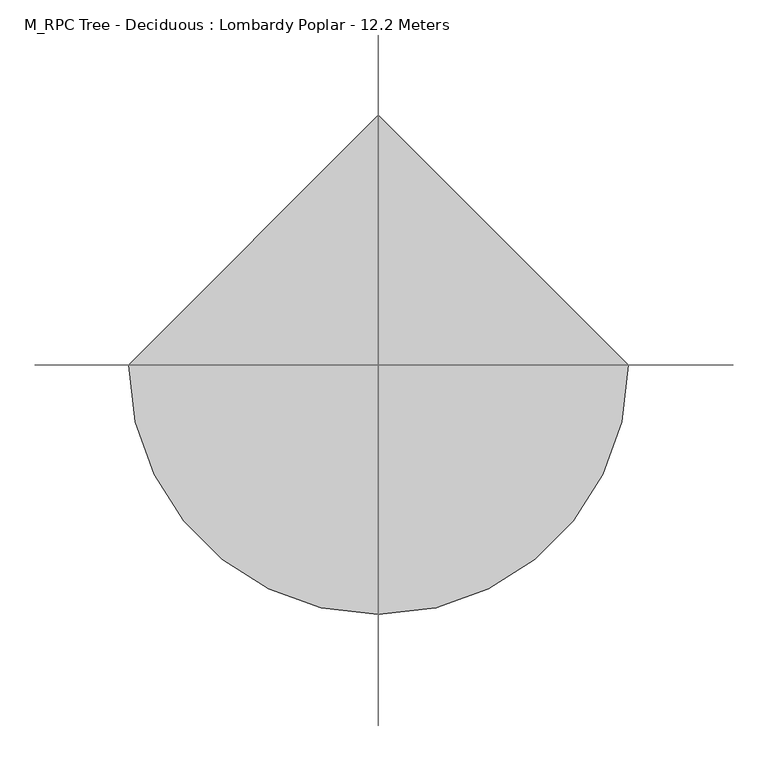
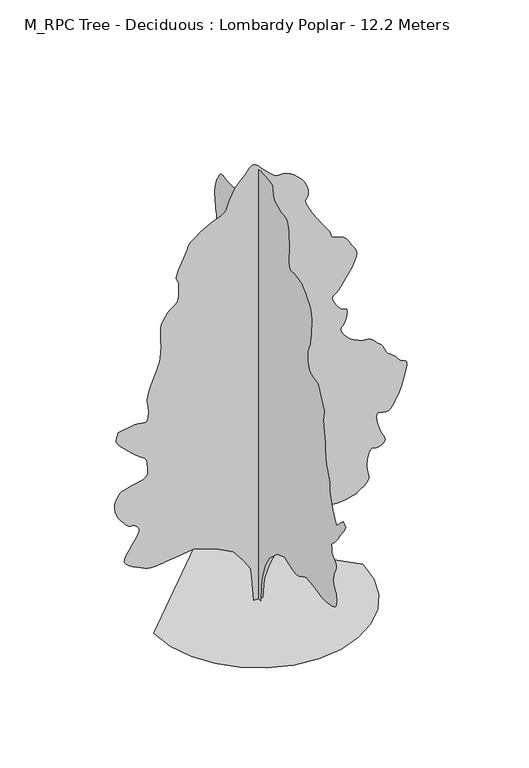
"""IFC4 building model written with IfcOpenShell, lengths in millimetres: geographic element geometry, M_RPC Tree - Deciduous : Lombardy Poplar - 12.2 Meters."""

from ifc_helpers import new_model, si_unit, origin, place, context, project, spatial, triangles, source, transform, mapped, element, save


def m_rpc_tree_deciduous_lombardy_poplar_12_2_meters_1b309f58(model_context):
    return source(origin(), model_context, "Body", "Tessellation", [
        triangles([(0.0009702, 113.8903684, 0.0), (0.0009702, -104.9033079, 0.0), (0.0009702, -123.1361794, 437.5878613), (0.0009702, -177.8345304, 729.3122423), (0.0009702, -323.695976, 1130.4323805), (0.0009702, -506.0246724, 1440.3905685), (0.0009702, -870.6795582, 1768.5802746), (0.0009702, -1217.103035, 1896.2098389), (0.0009702, -1399.4317314, 1823.2794067), (0.0009702, -1477.3590969, 1796.3301796), (0.0009702, -1554.013139, 1771.7700508), (0.0009702, -1628.1126858, 1751.9959671), (0.0009702, -1698.3871754, 1739.3994976), (0.0009702, -1763.5554359, 1736.3672699), (0.0009702, -1822.3466148, 1745.2987015), (0.0009702, -1873.4847725, 1768.5802746), (0.0009702, -1920.3683933, 1798.2414001), (0.0009702, -1967.2543396, 1825.0330788), (0.0009702, -2014.1379604, 1849.4330429), (0.0009702, -2061.0214359, 1871.9166996), (0.0009702, -2107.9049114, 1892.9691936), (0.0009702, -2154.791003, 1913.0611359), (0.0009702, -2201.6744785, 1932.6776711), (0.0009702, -2584.5657875, 1877.9785389), (0.0009702, -2650.9538864, 1862.4565212), (0.0009702, -2717.189669, 1847.572546), (0.0009702, -2783.0949486, 1833.9645103), (0.0009702, -2848.5426979, 1822.2703114), (0.0009702, -2913.3297318, 1813.1253754), (0.0009702, -2977.3287323, 1807.1728317), (0.0009702, -3040.3873833, 1805.0454906), (0.0009702, -3113.6890137, 1807.4372051), (0.0009702, -3202.6219574, 1815.2528618), (0.0009702, -3298.2390862, 1829.4454548), (0.0009702, -3391.6453033, 1850.9733559), (0.0009702, -3473.8681915, 1880.7946461), (0.0009702, -3536.0117821, 1919.865081), (0.0009702, -3569.129528, 1969.1428871), (0.0009702, -3581.5837097, 2022.776968), (0.0009702, -3588.2681854, 2074.4973576), (0.0009702, -3590.1744644, 2124.6265652), (0.0009702, -3588.2681854, 2173.4772171), (0.0009702, -3583.4899887, 2221.3724041), (0.0009702, -3576.7799332, 2268.6269325), (0.0009702, -3569.129528, 2315.5638931), (0.0009702, -3534.3595573, 2355.0611916), (0.0009702, -3502.0042648, 2397.1080437), (0.0009702, -3474.4018799, 2444.2583633), (0.0009702, -3453.9923698, 2499.0617043), (0.0009702, -3443.1648331, 2564.0798286), (0.0009702, -3444.2577896, 2641.8294434), (0.0009702, -3459.736496, 2734.9304466), (0.0009702, -3486.8051926, 2827.0402313), (0.0009702, -3517.6864471, 2902.5786438), (0.0009702, -3547.2965584, 2965.0271576), (0.0009702, -3570.5274078, 3017.919278), (0.0009702, -3582.270005, 3064.7620583), (0.0009702, -3577.4153595, 3109.0378441), (0.0009702, -3550.9059311, 3154.2792686), (0.0009702, -3512.0946373, 3195.2003174), (0.0009702, -3474.8846992, 3227.1998177), (0.0009702, -3440.877182, 3254.7513336), (0.0009702, -3411.622863, 3282.2775604), (0.0009702, -3388.7730949, 3314.2770607), (0.0009702, -3373.8789459, 3355.1978188), (0.0009702, -3368.5670609, 3409.5386879), (0.0009702, -3364.9071098, 3462.7863098), (0.0009702, -3357.1040977, 3500.7587013), (0.0009702, -3349.9112228, 3528.1834808), (0.0009702, -3348.1575508, 3549.8638435), (0.0009702, -3356.6212784, 3570.6038567), (0.0009702, -3380.0553131, 3595.1561371), (0.0009702, -3423.2634315, 3628.324752), (0.0009702, -3483.805957, 3682.2842491), (0.0009702, -3554.8963852, 3763.0330994), (0.0009702, -3634.7298843, 3866.097448), (0.0009702, -3721.5783623, 3987.0296013), (0.0009702, -3813.7137268, 4121.3565765), (0.0009702, -3909.3311462, 4264.6048096), (0.0009702, -4006.7275269, 4412.3260254), (0.0009702, -3897.3344948, 4521.7446373), (0.0009702, -3751.4683983, 4394.1024284), (0.0009702, -3605.6023018, 4230.012735), (0.0009702, -3582.0921089, 4261.5799942), (0.0009702, -3558.3019913, 4295.0791122), (0.0009702, -3533.825869, 4332.3907883), (0.0009702, -3508.4346863, 4375.4465904), (0.0009702, -3481.7470711, 4426.1527977), (0.0009702, -3453.4583908, 4486.4409782), (0.0009702, -3423.2634315, 4558.1921219), (0.0009702, -3392.2298607, 4631.6207794), (0.0009702, -3362.4668518, 4698.9495186), (0.0009702, -3335.2458389, 4765.3629066), (0.0009702, -3311.8623825, 4835.8940666), (0.0009702, -3293.5626274, 4915.6766968), (0.0009702, -3281.6674232, 5009.820369), (0.0009702, -3277.3976257, 5123.4070404), (0.0009702, -3269.2135323, 5238.2901443), (0.0009702, -3247.6346169, 5336.8812195), (0.0009702, -3217.1347343, 5425.3054733), (0.0009702, -3182.1615784, 5509.5363785), (0.0009702, -3147.1628426, 5595.7241409), (0.0009702, -3116.6626694, 5689.8416519), (0.0009702, -3095.0840446, 5798.0402802), (0.0009702, -3081.5877754, 5895.995929), (0.0009702, -3071.9040642, 5963.3499573), (0.0009702, -3065.4227737, 6011.8708328), (0.0009702, -3061.4831886, 6053.4014374), (0.0009702, -3059.4754623, 6099.6852402), (0.0009702, -3058.7130089, 6162.5657043), (0.0009702, -3058.6112709, 6253.8368774), (0.0009702, -3054.5699478, 6347.2939636), (0.0009702, -3044.1490723, 6416.5031113), (0.0009702, -3029.9159294, 6472.9537354), (0.0009702, -3014.3863541, 6528.1329254), (0.0009702, -3000.1529205, 6593.5300964), (0.0009702, -2989.732045, 6680.5817596), (0.0009702, -2985.6910126, 6800.8279083), (0.0009702, -2991.2572426, 6913.2710449), (0.0009702, -3003.5335281, 6981.3622375), (0.0009702, -3015.8351028, 7023.299794), (0.0009702, -3021.4013329, 7057.2564423), (0.0009702, -3013.5983208, 7101.4304901), (0.0009702, -2985.6910126, 7173.9946655), (0.0009702, -2930.9943512, 7293.1228592), (0.0009702, -2868.6219955, 7422.9759796), (0.0009702, -2820.6353897, 7519.3561432), (0.0009702, -2784.5945663, 7587.8281265), (0.0009702, -2758.1104271, 7633.959613), (0.0009702, -2738.8191628, 7663.366539), (0.0009702, -2724.3063858, 7681.5904266), (0.0009702, -2712.1827072, 7694.2477936), (0.0009702, -2638.2965195, 7706.295314), (0.0009702, -2566.4945068, 7720.4525894), (0.0009702, -2498.8201492, 7738.7270554), (0.0009702, -2437.3730278, 7763.2284668), (0.0009702, -2384.2140633, 7796.0415802), (0.0009702, -2341.4252506, 7839.1988297), (0.0009702, -2311.0701267, 7894.8105515), (0.0009702, -2290.8181652, 7956.2422668), (0.0009702, -2276.307859, 8015.7932831), (0.0009702, -2266.5783657, 8073.7182358), (0.0009702, -2260.6791618, 8130.3973343), (0.0009702, -2257.6495502, 8186.1102127), (0.0009702, -2256.5311592, 8241.1626663), (0.0009702, -2256.3736107, 8295.909906), (0.0009702, -2287.4708405, 8351.2169952), (0.0009702, -2317.6098438, 8410.0052673), (0.0009702, -2345.8350105, 8475.8088089), (0.0009702, -2371.1905849, 8552.134964), (0.0009702, -2392.7211021, 8642.5166565), (0.0009702, -2409.4655743, 8750.4100708), (0.0009702, -2420.468391, 8879.374292), (0.0009702, -2431.6847122, 9010.8290588), (0.0009702, -2445.4530579, 9127.2882294), (0.0009702, -2455.3934395, 9233.8852112), (0.0009702, -2455.1265953, 9335.6789978), (0.0009702, -2438.2752983, 9437.777417), (0.0009702, -2398.4601414, 9545.3150391), (0.0009702, -2329.3040428, 9663.3752747), (0.0009702, -2249.3560158, 9774.6498779), (0.0009702, -2178.6571335, 9861.3457489), (0.0009702, -2113.0620094, 9927.9370331), (0.0009702, -2048.4223503, 9978.9222931), (0.0009702, -1980.5955311, 10018.7256775), (0.0009702, -1905.430933, 10051.8434235), (0.0009702, -1818.7857857, 10082.7240967), (0.0009702, -1726.6656818, 10101.4566742), (0.0009702, -1639.9670494, 10102.9310028), (0.0009702, -1561.8795193, 10098.9905457), (0.0009702, -1495.593013, 10101.4566742), (0.0009702, -1444.2971615, 10122.0693695), (0.0009702, -1411.1792702, 10172.6732574), (0.0009702, -1399.4317314, 10265.0629669), (0.0009702, -1401.3455681, 10369.4751984), (0.0009702, -1405.8112839, 10455.052533), (0.0009702, -1410.9150421, 10532.0141144), (0.0009702, -1414.7402447, 10610.5767609), (0.0009702, -1415.3781418, 10700.9584534), (0.0009702, -1410.9150421, 10813.3248505), (0.0009702, -1399.4317314, 10957.9206757), (0.0009702, -1383.5921459, 11104.7268311), (0.0009702, -1366.4740047, 11219.3303009), (0.0009702, -1346.8066006, 11305.2390106), (0.0009702, -1323.3115231, 11365.9329803), (0.0009702, -1294.7126873, 11404.9480408), (0.0009702, -1259.7342991, 11425.7897919), (0.0009702, -1217.103035, 11431.9661591), (0.0009702, -1156.2403982, 11437.4809387), (0.0009702, -1074.0049381, 11453.8752869), (0.0009702, -980.2912542, 11480.765506), (0.0009702, -884.9789034, 11517.8737061), (0.0009702, -797.9625578, 11564.8440948), (0.0009702, -729.1241724, 11621.420874), (0.0009702, -688.3534052, 11687.2249969), (0.0009702, -673.3092653, 11757.0695709), (0.0009702, -668.4724966, 11824.0422272), (0.0009702, -663.953441, 11885.271048), (0.0009702, -649.8675276, 11937.9096954), (0.0009702, -616.3251709, 11979.0583466), (0.0009702, -553.4419089, 12005.8474091), (0.0009702, -451.3255403, 12015.4049652), (0.0009702, -328.0015635, 12019.089624), (0.0009702, -210.4196599, 12026.8926361), (0.0009702, -102.0858745, 12034.0608032), (0.0009702, -6.5099094, 12035.8141846), (0.0009702, 72.8000758, 12027.3751648), (0.0009702, 132.3357269, 12003.9417114), (0.0009702, 168.5887284, 11960.7083038), (0.0009702, 190.3829832, 11911.6031616), (0.0009702, 211.2205376, 11869.1824951), (0.0009702, 234.6091717, 11826.7618286), (0.0009702, 264.0583916, 11777.6322693), (0.0009702, 303.0754686, 11715.1325958), (0.0009702, 355.1693819, 11632.5283356), (0.0009702, 423.847639, 11523.1350128), (0.0009702, 499.9145076, 11406.6002655), (0.0009702, 572.4738868, 11305.3913269), (0.0009702, 642.4814232, 11216.9409119), (0.0009702, 710.8953432, 11138.6828979), (0.0009702, 778.6688227, 11068.1011597), (0.0009702, 846.7624861, 11002.602832), (0.0009702, 916.132089, 10939.6717896), (0.0009702, 984.3859171, 10887.6947296), (0.0009702, 1049.1321831, 10854.1956116), (0.0009702, 1111.3241718, 10835.3862946), (0.0009702, 1171.9249786, 10827.4065491), (0.0009702, 1231.8854176, 10826.440329), (0.0009702, 1292.1634243, 10828.6774017), (0.0009702, 1353.7199867, 10830.2784668), (0.0009702, 1420.0598328, 10835.869986), (0.0009702, 1491.503437, 10848.1459808), (0.0009702, 1564.2203648, 10860.4219757), (0.0009702, 1634.3881748, 10865.987915), (0.0009702, 1698.1762871, 10858.1860657), (0.0009702, 1751.7570282, 10830.2784668), (0.0009702, 1791.3078117, 10775.5818054), (0.0009702, 1825.3813133, 10707.9731415), (0.0009702, 1862.9623043, 10643.2119781), (0.0009702, 1900.8636246, 10577.5101746), (0.0009702, 1935.8928818, 10507.0295929), (0.0009702, 1964.8626251, 10427.9332581), (0.0009702, 1984.5859852, 10336.4074493), (0.0009702, 1991.8678082, 10228.5907745), (0.0009702, 1989.7404671, 10117.6463837), (0.0009702, 1983.7879234, 10017.5559814), (0.0009702, 1974.6456036, 9925.75112), (0.0009702, 1962.9514046, 9839.690094), (0.0009702, 1949.3433689, 9756.8323608), (0.0009702, 1934.4593937, 9674.6094727), (0.0009702, 1918.937376, 9590.455307), (0.0009702, 1915.5874352, 9511.6124451), (0.0009702, 1932.3319073, 9444.2584167), (0.0009702, 1962.471056, 9384.2498703), (0.0009702, 1999.3097958, 9327.4184555), (0.0009702, 2036.1486809, 9269.6464005), (0.0009702, 2066.2876842, 9206.7659363), (0.0009702, 2083.0321564, 9134.6331299), (0.0009702, 2082.5544239, 9064.6106598), (0.0009702, 2068.0415016, 9007.7025055), (0.0009702, 2043.3238243, 8959.0554749), (0.0009702, 2012.2265945, 8913.9152069), (0.0009702, 1978.5801018, 8867.5046677), (0.0009702, 1946.2069324, 8815.0444977), (0.0009702, 1918.937376, 8751.7320831), (0.0009702, 1903.0951744, 8679.3963821), (0.0009702, 1901.6083466, 8603.8579697), (0.0009702, 1913.1957207, 8526.4132782), (0.0009702, 1936.5841187, 8448.3337418), (0.0009702, 1970.4976009, 8370.8640518), (0.0009702, 2013.6625534, 8295.3256393), (0.0009702, 2064.7983856, 8222.9899384), (0.0009702, 2117.5835358, 8163.4133423), (0.0009702, 2167.8169521, 8119.1119766), (0.0009702, 2217.4124714, 8080.91082), (0.0009702, 2268.2837849, 8039.4819534), (0.0009702, 2322.3450199, 7985.6491928), (0.0009702, 2381.5072517, 7910.1113617), (0.0009702, 2447.6869331, 7803.6411163), (0.0009702, 2517.1100212, 7689.1899628), (0.0009702, 2585.5822952, 7593.5725433), (0.0009702, 2654.3597832, 7513.2303543), (0.0009702, 2724.7383362, 7444.7327911), (0.0009702, 2797.9890976, 7384.4951889), (0.0009702, 2875.3829201, 7329.0619446), (0.0009702, 2958.2156548, 7274.8733917), (0.0009702, 3041.988739, 7232.0463547), (0.0009702, 3121.6190529, 7206.7316208), (0.0009702, 3197.4115196, 7189.7280075), (0.0009702, 3269.6963516, 7171.7581741), (0.0009702, 3338.804052, 7143.596521), (0.0009702, 3405.0398346, 7095.9657074), (0.0009702, 3468.7339119, 7019.6145538), (0.0009702, 3527.5733437, 6926.1318878), (0.0009702, 3577.7967316, 6834.2252884), (0.0009702, 3617.5227951, 6745.4958206), (0.0009702, 3644.7693878, 6661.5701294), (0.0009702, 3657.7063889, 6583.9987015), (0.0009702, 3654.3516518, 6514.4337616), (0.0009702, 3632.8236053, 6454.3996353), (0.0009702, 3592.3603775, 6396.7293182), (0.0009702, 3536.9268425, 6334.585437), (0.0009702, 3471.6058296, 6270.2306442), (0.0009702, 3401.4816216, 6205.8502716), (0.0009702, 3331.6873352, 6143.7063904), (0.0009702, 3267.3072533, 6086.0360733), (0.0009702, 3213.4747833, 6035.0502319), (0.0009702, 3163.8615326, 5989.0210648), (0.0009702, 3111.4016533, 5943.6267426), (0.0009702, 3059.8821236, 5897.2667816), (0.0009702, 3013.1663704, 5848.3656967), (0.0009702, 2975.0666611, 5795.3206787), (0.0009702, 2949.3705551, 5736.5324066), (0.0009702, 2939.966478, 5670.3980713), (0.0009702, 2936.103051, 5601.0871857), (0.0009702, 2926.8007118, 5533.3517853), (0.0009702, 2915.5665138, 5466.6076035), (0.0009702, 2905.9589607, 5400.1430557), (0.0009702, 2901.4348183, 5333.3738754), (0.0009702, 2905.5270103, 5265.6640549), (0.0009702, 2921.7425903, 5196.3525879), (0.0009702, 2946.7779808, 5129.7357239), (0.0009702, 2974.6855797, 5069.8289154), (0.0009702, 3004.9822769, 5015.5136261), (0.0009702, 3037.1849625, 4965.6457397), (0.0009702, 3070.8366875, 4919.1334625), (0.0009702, 3105.4540512, 4874.8579674), (0.0009702, 3140.5289452, 4831.7004272), (0.0009702, 3183.2289551, 4838.4866409), (0.0009702, 3224.1497131, 4839.2490944), (0.0009702, 3261.5631271, 4827.8625801), (0.0009702, 3293.7405235, 4798.3030472), (0.0009702, 3318.8773613, 4744.5214462), (0.0009702, 3335.2458389, 4660.4178589), (0.0009702, 3341.091703, 4539.9685249), (0.0009702, 3341.091703, 3938.280542), (0.0009702, 3347.8014679, 3760.110022), (0.0009702, 3363.4327812, 3613.5070518), (0.0009702, 3381.2752968, 3494.3285706), (0.0009702, 3394.669828, 3398.431517), (0.0009702, 3396.9066101, 3321.6734116), (0.0009702, 3381.2752968, 3259.8856133), (0.0009702, 3341.091703, 3208.97593), (0.0009702, 3283.7263092, 3180.3314575), (0.0009702, 3223.8192101, 3176.2392654), (0.0009702, 3165.5134666, 3178.8318398), (0.0009702, 3112.9518494, 3170.2663742), (0.0009702, 3070.2521301, 3132.7006439), (0.0009702, 3041.6073669, 3048.2159752), (0.0009702, 3031.1359131, 2899.0201401), (0.0009702, 3038.0491539, 2734.6002342), (0.0009702, 3055.1545052, 2610.6941345), (0.0009702, 3077.063633, 2518.6782394), (0.0009702, 3098.3373344, 2449.9466789), (0.0009702, 3113.5366974, 2395.8854439), (0.0009702, 3117.2475174, 2347.8835773), (0.0009702, 3104.0561714, 2297.3324478), (0.0009702, 3091.0935905, 2255.656794), (0.0009702, 3091.8307549, 2234.0755531), (0.0009702, 3095.4654167, 2223.6572937), (0.0009702, 3091.0935905, 2215.4705841), (0.0009702, 3067.9136101, 2200.5866089), (0.0009702, 3015.0726494, 2170.0739365), (0.0009702, 2921.7425903, 2115.0037514), (0.0009702, 2824.1936028, 2054.1919109), (0.0009702, 2755.3655365, 2010.2847073), (0.0009702, 2699.2709953, 1980.0923641), (0.0009702, 2639.9993225, 1960.4249599), (0.0009702, 2561.6145721, 1948.0928638), (0.0009702, 2448.113942, 1939.9061543), (0.0009702, 2283.5922981, 1932.6776711), (0.0009702, 2107.2721012, 1934.9625607), (0.0009702, 1964.7584164, 1953.1938606), (0.0009702, 1849.6719818, 1980.9971054), (0.0009702, 1755.6381866, 2011.9851849), (0.0009702, 1676.2747169, 2039.7858135), (0.0009702, 1605.2047817, 2058.0197296), (0.0009702, 1536.0486832, 2060.3046192), (0.0009702, 1461.4686424, 2050.3642376), (0.0009702, 1379.2357258, 2036.5985081), (0.0009702, 1290.6231113, 2019.6406769), (0.0009702, 1196.9070293, 2000.133292), (0.0009702, 1099.3655994, 1978.7095997), (0.0009702, 999.2698923, 1956.0125839), (0.0009702, 897.9007164, 1932.6776711), (0.0009702, 533.2433235, 1640.9507103), (0.0009702, 314.4519545, 1166.90014), (0.0009702, 168.5887284, 601.682678), (120.2564769, 0.0005338, 0.0085401), (-116.7693169, 0.0005338, 0.0085401), (-171.467677, 0.0004852, 656.3894405), (-207.9336561, 0.0004852, 911.6485691), (-390.2621163, 0.000461, 1203.3729864), (-663.7526539, 0.0004367, 1549.7965359), (-1137.805695, 0.0004124, 1805.0556644), (-1721.2570004, 0.0004124, 1987.3818901), (-2195.3075706, 0.0004124, 1932.6852287), (-2468.8007607, 0.0004124, 1896.2200127), (-2535.4583199, 0.0004124, 1886.7040237), (-2609.1436478, 0.0004124, 1875.9120953), (-2687.9097702, 0.0004124, 1867.0366196), (-2769.8783134, 0.0004124, 1863.262286), (-2853.1177094, 0.0004124, 1867.7813416), (-2935.7219696, 0.0004124, 1883.7810917), (-3015.7842339, 0.0004124, 1914.4513126), (-3106.3182426, 0.0004124, 1956.8716885), (-3213.0934113, 0.0004124, 2005.9868591), (-3323.4015038, 0.0004124, 2061.804237), (-3424.4581261, 0.0004124, 2124.3164097), (-3503.5038826, 0.0003882, 2193.525848), (-3547.7796684, 0.0003882, 2269.4326973), (-3544.5263786, 0.0003882, 2352.039283), (-3497.4801224, 0.0003882, 2448.8383163), (-3427.1777275, 0.0003882, 2561.5889923), (-3345.9969269, 0.0003639, 2681.6572449), (-3266.417482, 0.0003639, 2800.4799339), (-3200.8679947, 0.0003639, 2909.3901466), (-3161.8026466, 0.0003397, 2999.7971283), (-3161.6503304, 0.0003397, 3063.1098335), (-3185.0843651, 0.0003397, 3105.2252861), (-3208.5183998, 0.0003397, 3138.699115), (-3231.9780144, 0.0003397, 3165.0306473), (-3255.4120491, 0.0003397, 3185.5927643), (-3278.8463745, 0.0003397, 3201.8592133), (-3302.3056984, 0.0003397, 3215.2540352), (-3325.7400238, 0.0003397, 3227.2251068), (-3349.3519547, 0.0003397, 3223.6921829), (-3373.9045258, 0.0003397, 3222.5992264), (-3400.3630852, 0.0003397, 3226.2591774), (-3429.7194328, 0.0003397, 3237.112294), (-3462.8880478, 0.0003397, 3257.521804), (-3500.8351501, 0.0003397, 3289.8770966), (-3544.5263786, 0.0003397, 3336.6181389), (-3595.9950394, 0.0003397, 3397.7452217), (-3652.5468201, 0.0003154, 3470.66548), (-3708.1585419, 0.0003154, 3553.8034286), (-3756.729705, 0.0003154, 3645.5574211), (-3792.2368401, 0.0003154, 3744.3263924), (-3808.6303162, 0.0002911, 3848.5089867), (-3799.7855072, 0.0002911, 3956.5297188), (-3773.9112144, 0.0002911, 4054.2313133), (-3742.2675064, 0.0002911, 4130.8876808), (-3703.6343994, 0.0002911, 4189.9814575), (-3656.6898811, 0.0002669, 4235.0705658), (-3600.1886787, 0.0002669, 4269.6117714), (-3532.8346504, 0.0002669, 4297.1632874), (-3453.3822327, 0.0002669, 4321.1821701), (-3359.0103767, 0.0002669, 4341.1594391), (-3254.4716995, 0.0002669, 4358.2903702), (-3149.5772301, 0.0002669, 4378.5981422), (-3054.2650246, 0.0002669, 4408.1576752), (-2978.4216888, 0.0002669, 4453.0180183), (-2931.9094116, 0.0002669, 4519.253801), (-2924.6147987, 0.0002669, 4612.9140724), (-2935.5184937, 0.0002426, 4710.7174049), (-2940.3475594, 0.0002426, 4788.1109367), (-2944.2365662, 0.0002426, 4849.2380196), (-2952.2680527, 0.0002426, 4898.2411331), (-2969.5260109, 0.0002426, 4939.289209), (-3001.1697189, 0.0002426, 4976.499147), (-3052.2570076, 0.0002426, 5014.0392975), (-3137.5552895, 0.0002184, 5075.3698563), (-3257.0134048, 0.0002184, 5172.1052307), (-3393.3481064, 0.0002184, 5290.5468384), (-3529.3778847, 0.0002184, 5416.9437744), (-3647.8703613, 0.0001941, 5537.6218735), (-3731.5925766, 0.0001941, 5638.8308121), (-3763.3380226, 0.0001941, 5706.870845), (-3761.7366669, 0.0001941, 5751.0960526), (-3757.2633934, 0.0001941, 5790.542482), (-3750.4010216, 0.0001941, 5825.9990387), (-3741.6320801, 0.0001698, 5858.2523026), (-3731.4402603, 0.0001698, 5888.1423386), (-3720.2822205, 0.0001698, 5916.4057297), (-3708.6413612, 0.0001698, 5943.9063766), (-3271.0433624, 0.0001698, 6016.8269257), (-3176.2139763, 0.0001698, 6018.4279907), (-3095.0840446, 0.0001698, 6002.7969681), (-3028.0096504, 0.0001698, 5986.1997253), (-2975.270137, 0.0001698, 5984.9288727), (-2937.2212967, 0.0001698, 6015.2252792), (-2914.1430542, 0.0001698, 6093.3815552), (-2906.3912018, 0.0001698, 6235.6129898), (-2912.8722015, 0.0001456, 6381.32677), (-2927.0038971, 0.0001456, 6474.7326965), (-2940.8306694, 0.0001456, 6539.4182831), (-2946.3713196, 0.0001456, 6598.9948792), (-2935.6202316, 0.0001213, 6677.0999954), (-2900.646785, 0.0001213, 6797.2694046), (-2833.4453636, 0.0001213, 6983.1667786), (-2756.1532791, 9.7e-05, 7180.2727707), (-2695.1535141, 9.7e-05, 7329.8496872), (-2648.7935532, 9.7e-05, 7449.1296158), (-2615.5232002, 7.28e-05, 7555.3458069), (-2593.7158104, 7.28e-05, 7665.7047684), (-2581.8208969, 7.28e-05, 7797.4135895), (-2578.186235, 4.85e-05, 7967.7305191), (-2581.6935791, 4.85e-05, 8141.3007385), (-2588.4036346, 4.85e-05, 8277.8644958), (-2592.5466957, 2.43e-05, 8387.3083969), (-2588.4036346, 2.43e-05, 8479.5452087), (-2570.2309067, 2.43e-05, 8564.4365387), (-2532.2710144, 2.43e-05, 8651.8701553), (-2468.8007607, 0.0, 8751.7570816), (-2395.1254612, 0.0, 8844.6043213), (-2330.3791225, 0.0, 8909.7218582), (-2274.5642155, 0.0, 8955.0650208), (-2227.68074, 0.0, 8988.6147171), (-2189.7260799, 0.0, 9018.326857), (-2160.7028515, 0.0, 9052.1817673), (-2140.6084385, 0.0, 9098.1603561), (-2127.1072277, -2.43e-05, 9141.3431854), (-2117.4335449, -2.43e-05, 9168.8694122), (-2110.9473129, -2.43e-05, 9191.9476547), (-2107.0152855, -2.43e-05, 9221.7109543), (-2104.9947693, -2.43e-05, 9269.3411865), (-2104.2500473, -2.43e-05, 9345.9981354), (-2104.1458385, -2.43e-05, 9462.8380966), (-2114.4572731, -4.85e-05, 9573.8324844), (-2137.5279579, -4.85e-05, 9640.805722), (-2161.5543983, -4.85e-05, 9686.7331512), (-2174.7354252, -4.85e-05, 9734.5674408), (-2165.2753922, -4.85e-05, 9807.2839325), (-2121.3655724, -7.28e-05, 9927.8358765), (-2031.2127903, -7.28e-05, 10119.1974518), (-1940.7398243, -7.28e-05, 10312.5926239), (-1890.1352097, -9.7e-05, 10438.3535522), (-1858.9846401, -9.7e-05, 10518.2126312), (-1826.878315, -9.7e-05, 10573.7987732), (-1773.4017826, -9.7e-05, 10626.8687897), (-1678.1453876, -9.7e-05, 10699.051593), (-1520.6945332, -0.0001213, 10812.0539978), (-1342.5671791, -0.0001213, 10924.4715546), (-1196.3325731, -0.0001213, 10992.588327), (-1078.1655853, -0.0001213, 11034.5264648), (-984.2359262, -0.0001213, 11068.4825317), (-910.7208641, -0.0001213, 11112.6565796), (-853.7901821, -0.0001456, 11185.220755), (-809.6160616, -0.0001456, 11304.34953), (-760.4450804, -0.0001456, 11447.9779724), (-695.3276888, -0.0001698, 11580.450119), (-620.643512, -0.0001698, 11699.5009918), (-542.7694862, -0.0001698, 11802.9470032), (-468.0827296, -0.0001698, 11888.5243378), (-402.9678815, -0.0001698, 11954.0238281), (-353.7968639, -0.0001941, 11997.1804962), (-315.471151, -0.0001941, 12037.745462), (-277.1428764, -0.0001941, 12089.4690491), (-236.5850686, -0.0001941, 12141.1914734), (-191.5607819, -0.0001941, 12181.7564392), (-139.8392205, -0.0001941, 12199.9797455), (-79.1872722, -0.0001941, 12184.7295135), (-7.3724481, -0.0001941, 12124.8227051), (68.5354197, -0.0001941, 12043.2102448), (139.977993, -0.0001941, 11969.908905), (206.9556271, -0.0001698, 11904.2570984), (269.4670549, -0.0001698, 11845.6467224), (327.5160916, -0.0001698, 11793.3906097), (381.0968691, -0.0001698, 11746.8783325), (430.2145105, -0.0001698, 11705.4738831), (477.6292036, -0.0001698, 11680.1079895), (528.2362527, -0.0001698, 11674.5164703), (585.2203471, -0.0001698, 11677.2360718), (651.7711905, -0.0001698, 11676.7535431), (731.0812477, -0.0001698, 11661.6044678), (826.3377153, -0.0001698, 11620.3035004), (940.7328403, -0.0001456, 11541.3594818), (1053.7961426, -0.0001456, 11441.8527649), (1144.2183123, -0.0001456, 11345.8539734), (1213.9056284, -0.0001456, 11252.3968872), (1264.7770145, -0.0001456, 11160.5420288), (1298.7438366, -0.0001213, 11069.3208527), (1317.7198586, -0.0001213, 10977.7962067), (1323.6215332, -0.0001213, 10884.9751282), (1311.5003254, -0.0001213, 10814.3922272), (1284.7112629, -0.0001213, 10775.7085419), (1257.5994003, -0.0001213, 10747.1916779), (1244.5224369, -9.7e-05, 10707.2359772), (1259.8334209, -9.7e-05, 10634.0869537), (1317.8800232, -9.7e-05, 10506.0889526), (1433.0173267, -7.28e-05, 10301.536322), (1569.3648182, -7.28e-05, 10081.0462921), (1682.1104073, -4.85e-05, 9912.8646973), (1772.2123203, -4.85e-05, 9786.7735565), (1840.6236969, -4.85e-05, 9692.579306), (1888.3052341, -4.85e-05, 9620.0657089), (1916.2126877, -4.85e-05, 9559.0403641), (1925.3042839, -2.43e-05, 9499.2858719), (1944.8648632, -2.43e-05, 9450.4859436), (1996.9587765, -2.43e-05, 9421.4598083), (2071.6963657, -2.43e-05, 9400.7453751), (2159.1930599, -2.43e-05, 9376.8282303), (2249.5593464, -2.43e-05, 9338.2207031), (2332.9106541, -2.43e-05, 9273.4845383), (2399.357325, -2.43e-05, 9171.106485), (2456.2346672, 0.0, 9061.1794739), (2512.7942963, 0.0, 8974.8388138), (2562.0212334, 0.0, 8902.2234787), (2596.892942, 0.0, 8833.4462814), (2610.3889206, 0.0, 8758.594455), (2595.4947716, 2.43e-05, 8667.8063919), (2545.2208054, 2.43e-05, 8551.1949051), (2482.9728607, 2.43e-05, 8437.658812), (2433.4843117, 2.43e-05, 8355.0289719), (2391.6484932, 2.43e-05, 8291.8944534), (2352.3645538, 4.85e-05, 8236.714682), (2310.5313515, 4.85e-05, 8178.0275665), (2261.0426571, 4.85e-05, 8104.3448547), (2198.7947124, 4.85e-05, 8004.2032928), (2128.4161594, 4.85e-05, 7909.2218811), (2062.1829929, 7.28e-05, 7849.3144913), (2006.4747654, 7.28e-05, 7810.4523285), (1967.6687038, 7.28e-05, 7778.6054352), (1952.1466862, 7.28e-05, 7739.7432724), (1966.2885555, 7.28e-05, 7679.8364639), (2016.4686321, 7.28e-05, 7584.8544708), (2082.0104164, 7.28e-05, 7483.0612656), (2138.9410984, 9.7e-05, 7408.9971817), (2188.6941662, 9.7e-05, 7358.0874985), (2232.7106655, 9.7e-05, 7325.6557571), (2272.4165268, 9.7e-05, 7307.1016571), (2309.2554119, 9.7e-05, 7297.7993179), (2344.6581928, 9.7e-05, 7293.1228592), (2348.3791866, 9.7e-05, 7265.4187363), (2350.9844055, 9.7e-05, 7235.6554367), (2351.3554585, 9.7e-05, 7201.7499481), (2348.3791866, 9.7e-05, 7161.6169327), (2340.937199, 9.7e-05, 7113.1983765), (2327.9137207, 0.0001213, 7054.409523), (2308.1929768, 0.0001213, 6983.1667786), (2279.3272968, 0.0001213, 6918.9643021), (2244.7225777, 0.0001213, 6875.7814728), (2212.0316952, 0.0001213, 6843.4770493), (2188.9076706, 0.0001213, 6811.7824722), (2183.0084667, 0.0001213, 6770.5315018), (2201.9844887, 0.0001213, 6709.5061569), (2253.4938446, 0.0001456, 6618.5146179), (2323.6615093, 0.0001456, 6523.7866791), (2392.871093, 0.0001456, 6454.5775314), (2460.1666946, 0.0001456, 6405.1421768), (2524.592704, 0.0001456, 6369.7367798), (2585.2012138, 0.0001456, 6342.6169235), (2641.0161209, 0.0001456, 6318.0643524), (2691.0869019, 0.0001456, 6290.3096512), (2740.0391464, 0.0001456, 6267.8924149), (2792.4990257, 0.0001456, 6258.2087036), (2847.5261902, 0.0001698, 6253.9641953), (2904.1291306, 0.0001698, 6247.7878281), (2961.3927864, 0.0001698, 6232.3852798), (3018.3259392, 0.0001698, 6200.3854889), (3073.9629501, 0.0001698, 6144.4691345), (3123.499752, 0.0001698, 6088.0696701), (3164.4460899, 0.0001698, 6052.7148514), (3199.3177986, 0.0001698, 6028.2134399), (3230.6818726, 0.0001698, 6004.3474548), (3261.0800171, 0.0001698, 5970.8989151), (3293.0795174, 0.0001698, 5917.7021622), (3329.2220787, 0.0001941, 5834.5136353), (3369.5326996, 0.0001941, 5750.0792542), (3412.6902397, 0.0001941, 5692.7903091), (3459.3551239, 0.0001941, 5651.7422333), (3510.1630692, 0.0001941, 5616.1339417), (3565.7745003, 0.0001941, 5575.0858658), (3626.7998451, 0.0001941, 5517.7969208), (3693.8742393, 0.0002184, 5433.3881195), (3762.397673, 0.0002184, 5358.4345551), (3824.5412636, 0.0002184, 5322.6989456), (3876.1625313, 0.0002184, 5305.1610626), (3913.0928352, 0.0002184, 5284.7518433), (3931.240274, 0.0002184, 5240.4248978), (3926.3856285, 0.0002184, 5151.1111633), (3894.4369972, 0.0002426, 4995.7904114), (3842.4090683, 0.0002426, 4804.5808617), (3781.7395157, 0.0002669, 4624.8598549), (3715.0464935, 0.0002669, 4461.4055878), (3644.8202568, 0.0002669, 4318.996257), (3573.6536705, 0.0002911, 4202.4356392), (3504.0628601, 0.0002911, 4116.4766418), (3438.6151108, 0.0002911, 4065.9230415), (3370.8035522, 0.0002911, 4054.7141327), (3297.8580048, 0.0002911, 4069.9640739), (3228.1145874, 0.0002911, 4091.2886444), (3169.859713, 0.0002911, 4098.2527542), (3131.3789223, 0.0002911, 4070.447184), (3120.9583374, 0.0002911, 3987.4618423), (3146.9084976, 0.0002911, 3828.8875099), (3198.9364265, 0.0003154, 3650.9201752), (3255.1327057, 0.0003154, 3516.974572), (3306.2199944, 0.0003154, 3417.4684364), (3342.947113, 0.0003397, 3342.8197952), (3356.0620102, 0.0003397, 3283.4975441), (3336.3640846, 0.0003397, 3229.9194191), (3274.5254173, 0.0003397, 3172.5031563), (3194.0056229, 0.0003397, 3136.309726), (3123.6779388, 0.0003397, 3137.4282623), (3062.601725, 0.0003397, 3152.9069687), (3009.8113426, 0.0003397, 3159.7693405), (2964.3664421, 0.0003397, 3135.039164), (2925.3010941, 0.0003397, 3055.7899315), (2891.649369, 0.0003639, 2899.0201401), (2877.9752037, 0.0003639, 2720.900489), (2889.514325, 0.0003882, 2585.8110603), (2911.2455566, 0.0003882, 2483.2830162), (2928.2238808, 0.0003882, 2402.7504318), (2925.402832, 0.0003882, 2333.7011581), (2887.8115219, 0.0003882, 2265.6074947), (2800.4799339, 0.0003882, 2187.9443573), (2703.3631874, 0.0004124, 2116.500753), (2637.5084862, 0.0004124, 2069.6172775), (2589.4965912, 0.0004124, 2040.5940491), (2545.9579697, 0.0004124, 2022.733802), (2493.4954742, 0.0004124, 2009.3366547), (2418.7045452, 0.0004124, 1993.7079575), (2308.1929768, 0.0004124, 1969.1504448), (2183.5396843, 0.0004124, 1948.1537613), (2072.2835392, 0.0004124, 1944.0592438), (1969.9562096, 0.0004124, 1951.4503624), (1872.0945957, 0.0004124, 1964.8982334), (1774.2329819, 0.0004124, 1978.9841469), (1671.9056522, 0.0004124, 1988.2866314), (1560.6493618, 0.0004124, 1987.3818901), (1455.6634735, 0.0004124, 1977.4413631), (1372.6858349, 0.0004124, 1963.675779), (1308.0463211, 0.0004124, 1946.7178024), (1258.0797489, 0.0004124, 1927.2105629), (1219.1160662, 0.0004124, 1905.7868706), (1187.4876188, 0.0004124, 1883.0898548), (1159.5267529, 0.0004124, 1859.7547966), (1159.2064962, 0.0004367, 1762.4244003), (1156.9749464, 0.0004367, 1667.1653893), (1150.9131071, 0.0004367, 1576.0569969), (1139.1146994, 0.0004367, 1491.1653763), (1119.6582561, 0.0004367, 1414.5648193), (1090.6350277, 0.000461, 1348.3316528), (1050.1285612, 0.000461, 1294.5374073), (1004.8386658, 0.000461, 1252.4372154), (962.4208334, 0.000461, 1218.9482712), (922.3921721, 0.000461, 1192.6370138), (884.2799635, 0.000461, 1172.0647957), (847.601243, 0.000461, 1155.7981287), (811.8806763, 0.000461, 1142.401054), (776.6379873, 0.000461, 1130.4425543), (466.6797266, 0.000461, 1130.4425543), (284.3510302, 0.0004852, 856.949437), (156.7227194, 0.0005095, 510.5259602), (-2767.8705872, 0.0, 0.0100928), (-2694.6959839, -634.2159393, 0.0100928), (-2486.310157, -1216.6404905, 0.0100928), (-2159.3761883, -1730.5900063, 0.0100928), (-1730.5900063, -2159.3761883, 0.0100928), (-1216.6404905, -2486.310157, 0.0100928), (-634.2159393, -2694.6959839, 0.0100928), (0.000121, -2767.8705872, 0.0100928), (634.2159393, -2694.6959839, 0.0100928), (1216.6404905, -2486.310157, 0.0100928), (1730.5900063, -2159.3761883, 0.0100928), (2159.3761883, -1730.5900063, 0.0100928), (2486.310157, -1216.6404905, 0.0100928), (2694.6959839, -634.2159393, 0.0100928), (2767.8705872, 0.0002426, 0.0100928), (-0.000363, 2767.8705872, 0.0100928)], [[1, 2, 3], [388, 1, 3], [388, 3, 4], [387, 388, 4], [387, 4, 5], [80, 81, 82], [79, 80, 82], [79, 82, 83], [78, 79, 83], [77, 78, 83], [387, 5, 6], [386, 387, 6], [76, 77, 83], [386, 6, 7], [359, 360, 361], [359, 361, 362], [385, 386, 7], [75, 76, 83], [75, 83, 84], [75, 84, 85], [74, 75, 85], [73, 74, 85], [73, 85, 86], [72, 73, 86], [72, 86, 87], [358, 359, 362], [358, 362, 363], [72, 87, 88], [131, 132, 133], [71, 72, 88], [130, 131, 133], [129, 130, 133], [71, 88, 89], [44, 45, 46], [128, 129, 133], [71, 89, 90], [207, 208, 209], [207, 209, 210], [206, 207, 210], [205, 206, 210], [205, 210, 211], [205, 211, 212], [204, 205, 212], [204, 212, 213], [203, 204, 213], [203, 213, 214], [203, 214, 215], [202, 203, 215], [202, 215, 216], [201, 202, 216], [200, 201, 216], [199, 200, 216], [198, 199, 216], [197, 198, 216], [196, 197, 216], [195, 196, 216], [194, 195, 216], [194, 216, 217], [193, 194, 217], [193, 217, 218], [193, 218, 219], [192, 193, 219], [192, 219, 220], [191, 192, 220], [191, 220, 221], [191, 221, 222], [190, 191, 222], [190, 222, 223], [128, 133, 134], [127, 128, 134], [71, 90, 91], [235, 236, 237], [234, 235, 237], [233, 234, 237], [233, 237, 238], [232, 233, 238], [232, 238, 239], [231, 232, 239], [231, 239, 240], [231, 240, 241], [231, 241, 242], [230, 231, 242], [230, 242, 243], [230, 243, 244], [230, 244, 245], [229, 230, 245], [229, 245, 246], [228, 229, 246], [228, 246, 247], [227, 228, 247], [227, 247, 248], [227, 248, 249], [226, 227, 249], [226, 249, 250], [226, 250, 251], [225, 226, 251], [225, 251, 252], [224, 225, 252], [71, 91, 92], [189, 190, 223], [330, 331, 332], [330, 332, 333], [329, 330, 333], [329, 333, 334], [328, 329, 334], [328, 334, 335], [328, 335, 336], [327, 328, 336], [385, 7, 8], [342, 343, 344], [341, 342, 344], [341, 344, 345], [340, 341, 345], [340, 345, 346], [339, 340, 346], [339, 346, 347], [338, 339, 347], [337, 338, 347], [337, 347, 348], [336, 337, 348], [327, 336, 348], [326, 327, 348], [325, 326, 348], [324, 325, 348], [323, 324, 348], [126, 127, 134], [126, 134, 135], [357, 358, 363], [357, 363, 364], [356, 357, 364], [355, 356, 364], [354, 355, 364], [353, 354, 364], [353, 364, 365], [352, 353, 365], [352, 365, 366], [352, 366, 367], [352, 367, 368], [352, 368, 369], [352, 369, 370], [351, 352, 370], [351, 370, 371], [351, 371, 372], [350, 351, 372], [350, 372, 373], [350, 373, 374], [350, 374, 375], [350, 375, 376], [349, 350, 376], [349, 376, 377], [348, 349, 377], [323, 348, 377], [323, 377, 378], [323, 378, 379], [323, 379, 380], [322, 323, 380], [322, 380, 381], [322, 381, 382], [321, 322, 382], [321, 382, 383], [321, 383, 384], [321, 384, 385], [321, 385, 8], [320, 321, 8], [319, 320, 8], [318, 319, 8], [317, 318, 8], [316, 317, 8], [315, 316, 8], [314, 315, 8], [313, 314, 8], [57, 58, 59], [56, 57, 59], [56, 59, 60], [55, 56, 60], [55, 60, 61], [54, 55, 61], [54, 61, 62], [53, 54, 62], [53, 62, 63], [53, 63, 64], [52, 53, 64], [36, 37, 38], [36, 38, 39], [35, 36, 39], [35, 39, 40], [35, 40, 41], [34, 35, 41], [34, 41, 42], [34, 42, 43], [33, 34, 43], [33, 43, 44], [33, 44, 46], [33, 46, 47], [32, 33, 47], [32, 47, 48], [31, 32, 48], [30, 31, 48], [30, 48, 49], [29, 30, 49], [28, 29, 49], [27, 28, 49], [26, 27, 49], [26, 49, 50], [25, 26, 50], [24, 25, 50], [24, 50, 51], [23, 24, 51], [23, 51, 52], [23, 52, 64], [23, 64, 65], [23, 65, 66], [23, 66, 67], [23, 67, 68], [23, 68, 69], [23, 69, 70], [22, 23, 70], [21, 22, 70], [20, 21, 70], [19, 20, 70], [18, 19, 70], [125, 126, 135], [125, 135, 136], [189, 223, 224], [189, 224, 252], [189, 252, 253], [188, 189, 253], [187, 188, 253], [186, 187, 253], [185, 186, 253], [184, 185, 253], [183, 184, 253], [182, 183, 253], [181, 182, 253], [180, 181, 253], [179, 180, 253], [178, 179, 253], [177, 178, 253], [176, 177, 253], [175, 176, 253], [174, 175, 253], [173, 174, 253], [172, 173, 253], [172, 253, 254], [172, 254, 255], [172, 255, 256], [172, 256, 257], [172, 257, 258], [172, 258, 259], [172, 259, 260], [172, 260, 261], [172, 261, 262], [172, 262, 263], [172, 263, 264], [172, 264, 265], [172, 265, 266], [172, 266, 267], [172, 267, 268], [172, 268, 269], [171, 172, 269], [171, 269, 270], [171, 270, 271], [170, 171, 271], [170, 271, 272], [169, 170, 272], [168, 169, 272], [167, 168, 272], [166, 167, 272], [165, 166, 272], [164, 165, 272], [163, 164, 272], [162, 163, 272], [161, 162, 272], [160, 161, 272], [159, 160, 272], [158, 159, 272], [157, 158, 272], [156, 157, 272], [155, 156, 272], [154, 155, 272], [153, 154, 272], [152, 153, 272], [151, 152, 272], [150, 151, 272], [149, 150, 272], [148, 149, 272], [147, 148, 272], [146, 147, 272], [145, 146, 272], [144, 145, 272], [143, 144, 272], [142, 143, 272], [141, 142, 272], [140, 141, 272], [139, 140, 272], [138, 139, 272], [138, 272, 273], [138, 273, 274], [137, 138, 274], [137, 274, 275], [137, 275, 276], [137, 276, 277], [137, 277, 278], [137, 278, 279], [137, 279, 280], [137, 280, 281], [137, 281, 282], [137, 282, 283], [136, 137, 283], [125, 136, 283], [124, 125, 283], [123, 124, 283], [122, 123, 283], [121, 122, 283], [120, 121, 283], [119, 120, 283], [118, 119, 283], [117, 118, 283], [116, 117, 283], [115, 116, 283], [114, 115, 283], [113, 114, 283], [112, 113, 283], [111, 112, 283], [110, 111, 283], [109, 110, 283], [108, 109, 283], [107, 108, 283], [106, 107, 283], [105, 106, 283], [104, 105, 283], [103, 104, 283], [103, 283, 284], [102, 103, 284], [102, 284, 285], [101, 102, 285], [100, 101, 285], [99, 100, 285], [98, 99, 285], [97, 98, 285], [96, 97, 285], [95, 96, 285], [94, 95, 285], [94, 285, 286], [93, 94, 286], [93, 286, 287], [92, 93, 287], [71, 92, 287], [70, 71, 287], [18, 70, 287], [17, 18, 287], [16, 17, 287], [15, 16, 287], [14, 15, 287], [13, 14, 287], [12, 13, 287], [11, 12, 287], [10, 11, 287], [9, 10, 287], [8, 9, 287], [313, 8, 287], [312, 313, 287], [311, 312, 287], [310, 311, 287], [309, 310, 287], [308, 309, 287], [307, 308, 287], [306, 307, 287], [305, 306, 287], [305, 287, 288], [304, 305, 288], [304, 288, 289], [303, 304, 289], [303, 289, 290], [303, 290, 291], [303, 291, 292], [303, 292, 293], [303, 293, 294], [303, 294, 295], [302, 303, 295], [302, 295, 296], [302, 296, 297], [301, 302, 297], [301, 297, 298], [300, 301, 298], [300, 298, 299], [745, 389, 390], [745, 390, 391], [744, 745, 391], [744, 391, 392], [622, 623, 624], [743, 744, 392], [743, 392, 393], [474, 475, 476], [473, 474, 476], [472, 473, 476], [471, 472, 476], [470, 471, 476], [469, 470, 476], [468, 469, 476], [467, 468, 476], [466, 467, 476], [465, 466, 476], [464, 465, 476], [464, 476, 477], [464, 477, 478], [464, 478, 479], [463, 464, 479], [463, 479, 480], [462, 463, 480], [461, 462, 480], [460, 461, 480], [460, 480, 481], [743, 393, 394], [622, 624, 625], [459, 460, 481], [621, 622, 625], [621, 625, 626], [621, 626, 627], [668, 669, 670], [668, 670, 671], [667, 668, 671], [667, 671, 672], [666, 667, 672], [620, 621, 627], [620, 627, 628], [620, 628, 629], [666, 672, 673], [620, 629, 630], [619, 620, 630], [619, 630, 631], [619, 631, 632], [619, 632, 633], [618, 619, 633], [618, 633, 634], [665, 666, 673], [550, 551, 552], [550, 552, 553], [549, 550, 553], [548, 549, 553], [548, 553, 554], [547, 548, 554], [547, 554, 555], [546, 547, 555], [545, 546, 555], [545, 555, 556], [544, 545, 556], [543, 544, 556], [543, 556, 557], [542, 543, 557], [542, 557, 558], [541, 542, 558], [541, 558, 559], [540, 541, 559], [539, 540, 559], [539, 559, 560], [538, 539, 560], [538, 560, 561], [617, 618, 634], [690, 691, 692], [690, 692, 693], [689, 690, 693], [689, 693, 694], [689, 694, 695], [689, 695, 696], [688, 689, 696], [688, 696, 697], [687, 688, 697], [687, 697, 698], [686, 687, 698], [410, 411, 412], [410, 412, 413], [409, 410, 413], [408, 409, 413], [408, 413, 414], [407, 408, 414], [407, 414, 415], [406, 407, 415], [406, 415, 416], [405, 406, 416], [404, 405, 416], [403, 404, 416], [402, 403, 416], [401, 402, 416], [400, 401, 416], [400, 416, 417], [399, 400, 417], [398, 399, 417], [397, 398, 417], [397, 417, 418], [396, 397, 418], [396, 418, 419], [665, 673, 674], [664, 665, 674], [663, 664, 674], [662, 663, 674], [661, 662, 674], [661, 674, 675], [661, 675, 676], [660, 661, 676], [660, 676, 677], [660, 677, 678], [660, 678, 679], [660, 679, 680], [660, 680, 681], [660, 681, 682], [660, 682, 683], [659, 660, 683], [659, 683, 684], [658, 659, 684], [537, 538, 561], [657, 658, 684], [656, 657, 684], [655, 656, 684], [654, 655, 684], [653, 654, 684], [652, 653, 684], [651, 652, 684], [650, 651, 684], [649, 650, 684], [648, 649, 684], [647, 648, 684], [646, 647, 684], [645, 646, 684], [644, 645, 684], [643, 644, 684], [642, 643, 684], [641, 642, 684], [640, 641, 684], [639, 640, 684], [537, 561, 562], [638, 639, 684], [704, 705, 706], [704, 706, 707], [703, 704, 707], [703, 707, 708], [702, 703, 708], [702, 708, 709], [702, 709, 710], [702, 710, 711], [702, 711, 712], [702, 712, 713], [701, 702, 713], [701, 713, 714], [701, 714, 715], [701, 715, 716], [701, 716, 717], [701, 717, 718], [700, 701, 718], [700, 718, 719], [700, 719, 720], [699, 700, 720], [699, 720, 721], [699, 721, 722], [698, 699, 722], [686, 698, 722], [685, 686, 722], [685, 722, 723], [685, 723, 724], [684, 685, 724], [638, 684, 724], [638, 724, 725], [637, 638, 725], [637, 725, 726], [637, 726, 727], [636, 637, 727], [636, 727, 728], [635, 636, 728], [574, 575, 576], [458, 459, 481], [396, 419, 420], [574, 576, 577], [573, 574, 577], [572, 573, 577], [571, 572, 577], [570, 571, 577], [569, 570, 577], [568, 569, 577], [568, 577, 578], [567, 568, 578], [566, 567, 578], [565, 566, 578], [564, 565, 578], [563, 564, 578], [562, 563, 578], [537, 562, 578], [537, 578, 579], [537, 579, 580], [536, 537, 580], [536, 580, 581], [536, 581, 582], [535, 536, 582], [534, 535, 582], [533, 534, 582], [532, 533, 582], [531, 532, 582], [530, 531, 582], [529, 530, 582], [528, 529, 582], [527, 528, 582], [526, 527, 582], [525, 526, 582], [524, 525, 582], [523, 524, 582], [522, 523, 582], [521, 522, 582], [520, 521, 582], [519, 520, 582], [518, 519, 582], [517, 518, 582], [516, 517, 582], [515, 516, 582], [515, 582, 583], [514, 515, 583], [514, 583, 584], [513, 514, 584], [513, 584, 585], [513, 585, 586], [513, 586, 587], [513, 587, 588], [513, 588, 589], [512, 513, 589], [511, 512, 589], [510, 511, 589], [509, 510, 589], [509, 589, 590], [508, 509, 590], [507, 508, 590], [506, 507, 590], [505, 506, 590], [504, 505, 590], [503, 504, 590], [502, 503, 590], [501, 502, 590], [500, 501, 590], [499, 500, 590], [498, 499, 590], [497, 498, 590], [496, 497, 590], [495, 496, 590], [494, 495, 590], [493, 494, 590], [492, 493, 590], [491, 492, 590], [490, 491, 590], [489, 490, 590], [488, 489, 590], [487, 488, 590], [486, 487, 590], [485, 486, 590], [484, 485, 590], [483, 484, 590], [482, 483, 590], [482, 590, 591], [482, 591, 592], [482, 592, 593], [482, 593, 594], [482, 594, 595], [482, 595, 596], [482, 596, 597], [482, 597, 598], [482, 598, 599], [482, 599, 600], [482, 600, 601], [482, 601, 602], [482, 602, 603], [482, 603, 604], [482, 604, 605], [482, 605, 606], [482, 606, 607], [482, 607, 608], [482, 608, 609], [482, 609, 610], [482, 610, 611], [482, 611, 612], [482, 612, 613], [482, 613, 614], [482, 614, 615], [482, 615, 616], [482, 616, 617], [482, 617, 634], [482, 634, 635], [482, 635, 728], [481, 482, 728], [458, 481, 728], [457, 458, 728], [456, 457, 728], [455, 456, 728], [454, 455, 728], [453, 454, 728], [452, 453, 728], [451, 452, 728], [451, 728, 729], [451, 729, 730], [451, 730, 731], [451, 731, 732], [451, 732, 733], [451, 733, 734], [451, 734, 735], [451, 735, 736], [451, 736, 737], [451, 737, 738], [451, 738, 739], [451, 739, 740], [451, 740, 741], [451, 741, 742], [451, 742, 743], [451, 743, 394], [451, 394, 395], [451, 395, 396], [451, 396, 420], [451, 420, 421], [451, 421, 422], [451, 422, 423], [450, 451, 423], [450, 423, 424], [450, 424, 425], [450, 425, 426], [449, 450, 426], [448, 449, 426], [447, 448, 426], [446, 447, 426], [445, 446, 426], [444, 445, 426], [443, 444, 426], [442, 443, 426], [441, 442, 426], [440, 441, 426], [439, 440, 426], [438, 439, 426], [437, 438, 426], [436, 437, 426], [435, 436, 426], [434, 435, 426], [433, 434, 426], [432, 433, 426], [431, 432, 426], [430, 431, 426], [430, 426, 427], [429, 430, 427], [428, 429, 427], [760, 761, 746], [759, 760, 746], [759, 746, 747], [758, 759, 747], [758, 747, 748], [758, 748, 749], [757, 758, 749], [756, 757, 749], [756, 749, 750], [756, 750, 751], [756, 751, 752], [756, 752, 753], [756, 753, 754], [756, 754, 755]], closed=False),
    ])


if __name__ == "__main__":
    model = new_model("IFC4")
    model_context = context("Model", 3, world=origin())
    ifc_project = project(units=[si_unit("LENGTHUNIT", "METRE", prefix="MILLI")], contexts=[model_context])
    site = spatial("IfcSite", under=ifc_project)
    building = spatial("IfcBuilding", under=site)
    placement = place(None, origin())
    m_rpc_tree_deciduous_lombardy_poplar_12_2_meters_shape = m_rpc_tree_deciduous_lombardy_poplar_12_2_meters_1b309f58(model_context)
    element("IfcGeographicElement", 1, ObjectType="M_RPC Tree - Deciduous : Lombardy Poplar - 12.2 Meters", at=placement, inside=building, context=model_context, shape_type="MappedRepresentation", body=[
        mapped(m_rpc_tree_deciduous_lombardy_poplar_12_2_meters_shape, transform((0.0, 0.0, 0.0), x_axis=(1.0, 0.0, 0.0), y_axis=(0.0, 1.0, 0.0), z_axis=(0.0, 0.0, 1.0))),
    ])
    save(model, "model.ifc")
